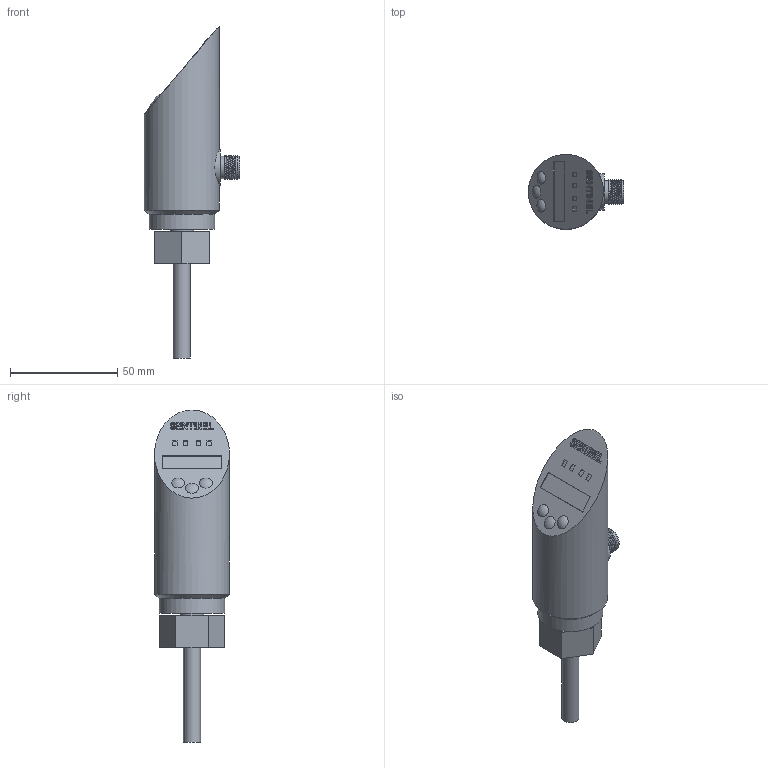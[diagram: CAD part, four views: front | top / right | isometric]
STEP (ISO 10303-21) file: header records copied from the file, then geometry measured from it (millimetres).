
FILE_DESCRIPTION(/* description */ (''),/* implementation_level */ '2;1');
FILE_NAME(/* name */ 'TB-18MN-APN6D-SC.stp',/* time_stamp */ '2022-06-17T15:35:42+08:00',/* author */ (''),/* organization */ (''),/* preprocessor_version */ 'ST-DEVELOPER v16',/* originating_system */ 'SIEMENS PLM Software NX 10.0',/* authorisation */ '');
FILE_SCHEMA (('CONFIG_CONTROL_DESIGN'));
Length unit declared in the file: millimetre
Products named in the file (1): TB-18MN
Bounding box: 44.5 x 35 x 155 mm (x, y, z)
Volume: 76836.2 mm3; surface area: 16840.6 mm2
Topology: 1 solids, 1 shells, 166 faces, 405 edges, 271 vertices
Faces by surface type: plane 123, cylinder 18, extrusion 16, bspline 5, sphere 3, cone 1
Full cylindrical faces by diameter (mm): 0.75 x5, 8 x1, 9 x1, 10 x1, 10.5 x2, 11 x1, 17 x1, 30.558 x1, 35 x1
Entity records: 7979 total; most frequent: CARTESIAN_POINT 4403, ORIENTED_EDGE 770, DIRECTION 545, EDGE_CURVE 385, VERTEX_POINT 267, EDGE_LOOP 212, B_SPLINE_CURVE_WITH_KNOTS 199, VECTOR 183
